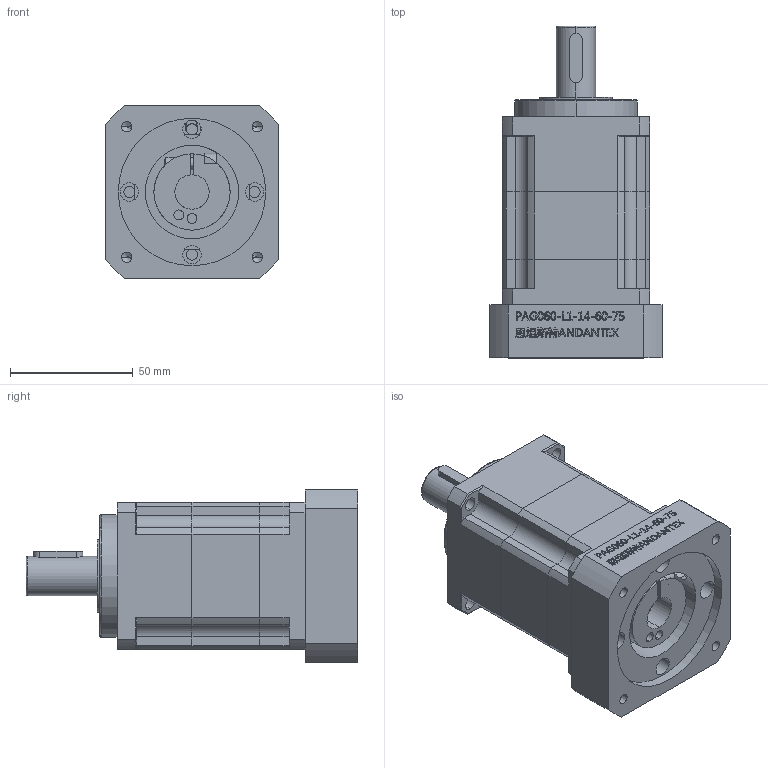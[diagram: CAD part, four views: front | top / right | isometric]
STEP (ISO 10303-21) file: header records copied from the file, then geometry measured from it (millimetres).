
FILE_DESCRIPTION (( 'STEP AP203' ), '1' );
FILE_NAME ('PAG060-L2-14-60-75.STEP', '2023-09-20T08:58:23', ( 'Windows User' ), ( 'P R C' ), 'SwSTEP 2.0', 'SolidWorks 2016', '' );
FILE_SCHEMA (( 'CONFIG_CONTROL_DESIGN' ));
Length unit declared in the file: millimetre
Products named in the file (7): PAG60俋倛芞奻裔啣_72T; PAG060外形图下盖板-分体-14; 邧埴瑩 5x5x20; PAG060外形图二级齿圈_72T; 囀鞠褒蹟佪-M5℅16_1; PAG060-LJ 60-M5-75-LR32; PAG060-L2-14-60-75
Assembly tree (6 placements, depth 2):
  PAG060-L2-14-60-75
    PAG60俋倛芞奻裔啣_72T
    PAG060外形图下盖板-分体-14
    邧埴瑩 5x5x20
    PAG060外形图二级齿圈_72T
    囀鞠褒蹟佪-M5℅16_1
    PAG060-LJ 60-M5-75-LR32
Bounding box: 70 x 135 x 70 mm (x, y, z)
Volume: 338823.1 mm3; surface area: 71254.1 mm2
Topology: 7 solids, 7 shells, 856 faces, 2281 edges, 1499 vertices
Faces by surface type: plane 518, cylinder 158, bspline 153, cone 27
Entity records: 33409 total; most frequent: CARTESIAN_POINT 12137, ORIENTED_EDGE 4526, DIRECTION 3705, EDGE_CURVE 2263, LINE 1557, VECTOR 1557, VERTEX_POINT 1499, AXIS2_PLACEMENT_3D 1074
